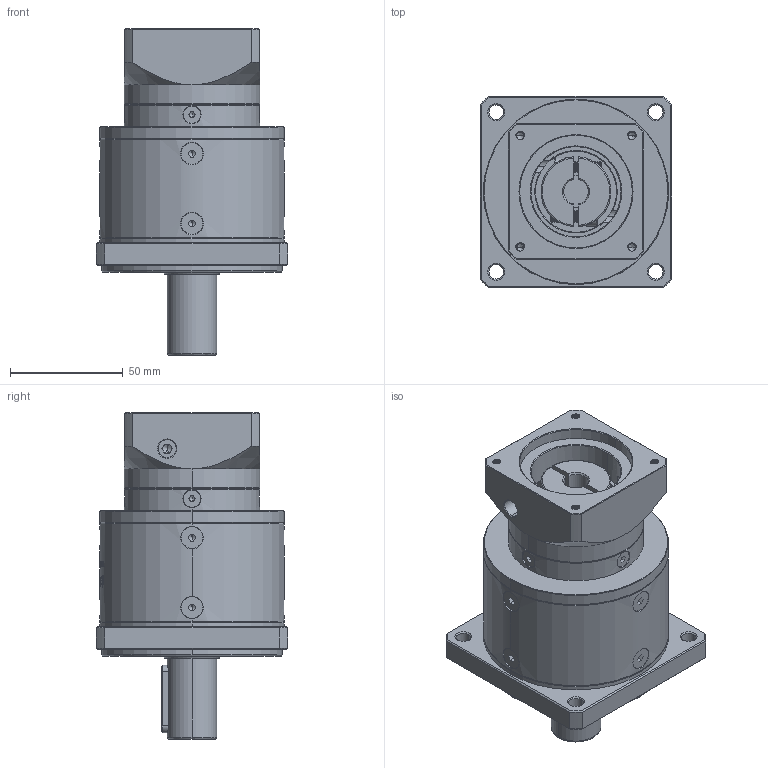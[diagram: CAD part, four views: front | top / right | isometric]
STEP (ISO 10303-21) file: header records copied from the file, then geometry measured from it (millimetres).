
FILE_DESCRIPTION (( 'STEP AP214' ), '1' );
FILE_NAME ('ZF80-D22-L2-11-50-70-M4.step', '2022-05-08T09:25:41', ( '' ), ( 'Microsoft' ), 'SwSTEP 2.0', 'SolidWorks 2016', '' );
FILE_SCHEMA (( 'AUTOMOTIVE_DESIGN' ));
Length unit declared in the file: millimetre
Products named in the file (1): ZF80-D22-L2-11-50-70-M4
Bounding box: 85 x 85 x 145 mm (x, y, z)
Volume: 472107.5 mm3; surface area: 67889.4 mm2
Topology: 18 solids, 18 shells, 2009 faces, 5249 edges, 3336 vertices
Faces by surface type: plane 948, cylinder 393, bspline 328, cone 326, torus 14
Entity records: 105700 total; most frequent: CARTESIAN_POINT 37646, ORIENTED_EDGE 10422, DIRECTION 8327, EDGE_CURVE 5211, VERTEX_POINT 3336, LINE 2807, VECTOR 2807, AXIS2_PLACEMENT_3D 2760
